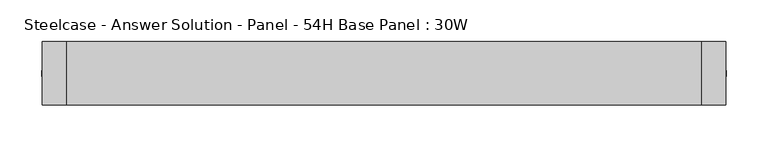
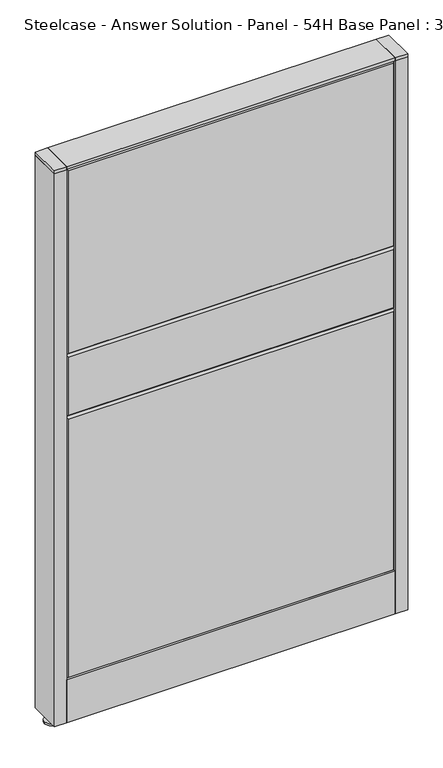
"""IFC4 building model written with IfcOpenShell, lengths in millimetres: furniture geometry, Steelcase - Answer Solution - Panel - 54H Base Panel : 30W."""

from ifc_helpers import new_model, si_unit, point, frame, frame_2d, origin, place, context, project, spatial, polyline, circle_curve, trimmed, segment, composite_curve, outline, extrude, faceted_brep, source, transform, mapped, element, save


def steelcase_answer_solution_panel_54h_base_panel_30w_6c2a5a5e(model_context):
    return source(origin(), model_context, "Body", "SolidModel", [
        extrude(outline(composite_curve([segment(trimmed(circle_curve(frame_2d((395.224, 0.0320214)), 5.08), [point((400.304, 0.0320214))], [point((390.144, 0.0320214))], False, "CARTESIAN"), True, "CONTINUOUS"), segment(trimmed(circle_curve(frame_2d((395.224, 0.0320214)), 5.08), [point((390.144, 0.0320214))], [point((400.304, 0.0320214))], False, "CARTESIAN"), True, "CONTINUOUS")], self_intersect=False)), frame((0.0, 0.0, 5.0799671), z_axis=(0.0, 0.0, 1.0), x_axis=(1.0, 0.0, 0.0)), (0.0, 0.0, 1.0), 10.414),
        extrude(outline(composite_curve([segment(trimmed(circle_curve(frame_2d((395.224, 0.0320214)), 15.24), [point((410.464, 0.0320214))], [point((379.984, 0.0320214))], False, "CARTESIAN"), True, "CONTINUOUS"), segment(trimmed(circle_curve(frame_2d((395.224, 0.0320214)), 15.24), [point((379.984, 0.0320214))], [point((410.464, 0.0320214))], False, "CARTESIAN"), True, "CONTINUOUS")], self_intersect=False)), frame((0.0, 0.0, -3.29e-05), z_axis=(0.0, 0.0, 1.0), x_axis=(1.0, 0.0, 0.0)), (0.0, 0.0, 1.0), 5.08),
        extrude(outline(polyline([(409.575, 38.1320408), (409.575, -38.0679592), (381.0, -38.0679592), (381.0, 38.1320408), (409.575, 38.1320408)])), frame((0.0, 0.0, 1370.6348), z_axis=(0.0, 0.0, 1.0), x_axis=(1.0, 0.0, 0.0)), (0.0, 0.0, 1.0), 7.3151671),
        extrude(outline(polyline([(409.575, 38.1320408), (409.575, -38.0679592), (381.0, -38.0679592), (381.0, 38.1320408), (409.575, 38.1320408)])), frame((0.0, 0.0, 15.4939671), z_axis=(0.0, 0.0, 1.0), x_axis=(1.0, 0.0, 0.0)), (0.0, 0.0, 1.0), 1355.1408329),
        extrude(outline(composite_curve([segment(trimmed(circle_curve(frame_2d((-395.224, 0.0320214)), 5.08), [point((-400.304, 0.0320214))], [point((-390.144, 0.0320214))], False, "CARTESIAN"), True, "CONTINUOUS"), segment(trimmed(circle_curve(frame_2d((-395.224, 0.0320214)), 5.08), [point((-390.144, 0.0320214))], [point((-400.304, 0.0320214))], False, "CARTESIAN"), True, "CONTINUOUS")], self_intersect=False)), frame((0.0, 0.0, 5.0799671), z_axis=(0.0, 0.0, 1.0), x_axis=(1.0, 0.0, 0.0)), (0.0, 0.0, 1.0), 10.414),
        extrude(outline(composite_curve([segment(trimmed(circle_curve(frame_2d((-395.224, 0.0320214)), 15.24), [point((-410.464, 0.0320214))], [point((-379.984, 0.0320214))], False, "CARTESIAN"), True, "CONTINUOUS"), segment(trimmed(circle_curve(frame_2d((-395.224, 0.0320214)), 15.24), [point((-379.984, 0.0320214))], [point((-410.464, 0.0320214))], False, "CARTESIAN"), True, "CONTINUOUS")], self_intersect=False)), frame((0.0, 0.0, -3.29e-05), z_axis=(0.0, 0.0, 1.0), x_axis=(1.0, 0.0, 0.0)), (0.0, 0.0, 1.0), 5.08),
        extrude(outline(polyline([(-409.575, 38.1320408), (-381.0, 38.1320408), (-381.0, -38.0679592), (-409.575, -38.0679592), (-409.575, 38.1320408)])), frame((0.0, 0.0, 1370.6348), z_axis=(0.0, 0.0, 1.0), x_axis=(1.0, 0.0, 0.0)), (0.0, 0.0, 1.0), 7.3151671),
        extrude(outline(polyline([(-409.575, 38.1320408), (-381.0, 38.1320408), (-381.0, -38.0679592), (-409.575, -38.0679592), (-409.575, 38.1320408)])), frame((0.0, 0.0, 15.4939671), z_axis=(0.0, 0.0, 1.0), x_axis=(1.0, 0.0, 0.0)), (0.0, 0.0, 1.0), 1355.1408329),
        faceted_brep([(-376.174, 38.1635011, 1366.774), (376.174, 38.1635011, 1366.774), (376.174, 38.1635011, 919.226), (-376.174, 38.1635011, 919.226), (-381.0, 33.3375011, 1371.6), (-381.0, 33.3375011, 914.4), (381.0, 33.3375011, 914.4), (381.0, 33.3375011, 1371.6)], [[[0, 1, 2, 3]], [[4, 5, 6, 7]], [[4, 7, 1, 0]], [[7, 6, 2, 1]], [[6, 5, 3, 2]], [[5, 4, 0, 3]]]),
        faceted_brep([(-376.174, 38.1635011, 909.574), (376.174, 38.1635011, 909.574), (376.174, 38.1635011, 766.826), (-376.174, 38.1635011, 766.826), (-381.0, 33.3375011, 914.4), (-381.0, 33.3375011, 762.0), (381.0, 33.3375011, 762.0), (381.0, 33.3375011, 914.4)], [[[0, 1, 2, 3]], [[4, 5, 6, 7]], [[4, 7, 1, 0]], [[7, 6, 2, 1]], [[6, 5, 3, 2]], [[5, 4, 0, 3]]]),
        faceted_brep([(-376.174, 38.1635011, 757.174), (376.174, 38.1635011, 757.174), (376.174, 38.1635011, 125.476), (-376.174, 38.1635011, 125.476), (-381.0, 33.3375011, 762.0), (-381.0, 33.3375011, 120.65), (381.0, 33.3375011, 120.65), (381.0, 33.3375011, 762.0)], [[[0, 1, 2, 3]], [[4, 5, 6, 7]], [[4, 7, 1, 0]], [[7, 6, 2, 1]], [[6, 5, 3, 2]], [[5, 4, 0, 3]]]),
        faceted_brep([(376.174, -38.1635011, 1366.774), (-376.174, -38.1635011, 1366.774), (-376.174, -38.1635011, 919.226), (376.174, -38.1635011, 919.226), (381.0, -33.3375011, 1371.6), (381.0, -33.3375011, 914.4), (-381.0, -33.3375011, 914.4), (-381.0, -33.3375011, 1371.6)], [[[0, 1, 2, 3]], [[4, 5, 6, 7]], [[4, 7, 1, 0]], [[7, 6, 2, 1]], [[6, 5, 3, 2]], [[5, 4, 0, 3]]]),
        faceted_brep([(376.174, -38.1635011, 909.574), (-376.174, -38.1635011, 909.574), (-376.174, -38.1635011, 766.826), (376.174, -38.1635011, 766.826), (381.0, -33.3375011, 914.4), (381.0, -33.3375011, 762.0), (-381.0, -33.3375011, 762.0), (-381.0, -33.3375011, 914.4)], [[[0, 1, 2, 3]], [[4, 5, 6, 7]], [[4, 7, 1, 0]], [[7, 6, 2, 1]], [[6, 5, 3, 2]], [[5, 4, 0, 3]]]),
        faceted_brep([(376.174, -38.1635011, 757.174), (-376.174, -38.1635011, 757.174), (-376.174, -38.1635011, 125.476), (376.174, -38.1635011, 125.476), (381.0, -33.3375011, 762.0), (381.0, -33.3375011, 120.65), (-381.0, -33.3375011, 120.65), (-381.0, -33.3375011, 762.0)], [[[0, 1, 2, 3]], [[4, 5, 6, 7]], [[4, 7, 1, 0]], [[7, 6, 2, 1]], [[6, 5, 3, 2]], [[5, 4, 0, 3]]]),
        extrude(outline(polyline([(381.0, 38.1000194), (381.0, -38.1000194), (-381.0, -38.1000194), (-381.0, 38.1000194), (381.0, 38.1000194)])), frame((0.0, 0.0, 1371.6), z_axis=(0.0, 0.0, 1.0), x_axis=(1.0, 0.0, 0.0)), (0.0, 0.0, 1.0), 6.35),
        extrude(outline(polyline([(25.4000011, 119.8575157), (25.4000011, 120.65), (38.1000194, 120.65), (38.1000194, 15.494), (37.3075215, 15.494), (37.3075215, 119.8575157), (25.4000011, 119.8575157)])), frame((-381.0, 0.0, 0.0), z_axis=(1.0, 0.0, 0.0), x_axis=(0.0, 1.0, 0.0)), (0.0, 0.0, 1.0), 762.0),
        extrude(outline(polyline([(-25.4000011, 119.8575157), (-37.3075215, 119.8575157), (-37.3075215, 15.494), (-38.1000194, 15.494), (-38.1000194, 120.65), (-25.4000011, 120.65), (-25.4000011, 119.8575157)])), frame((-381.0, 0.0, 0.0), z_axis=(1.0, 0.0, 0.0), x_axis=(0.0, 1.0, 0.0)), (0.0, 0.0, 1.0), 762.0),
    ])


if __name__ == "__main__":
    model = new_model("IFC4")
    model_context = context("Model", 3, world=origin())
    ifc_project = project(units=[si_unit("LENGTHUNIT", "METRE", prefix="MILLI")], contexts=[model_context])
    site = spatial("IfcSite", under=ifc_project)
    building = spatial("IfcBuilding", under=site)
    placement = place(None, origin())
    steelcase_answer_solution_panel_54h_base_panel_30w_shape = steelcase_answer_solution_panel_54h_base_panel_30w_6c2a5a5e(model_context)
    element("IfcFurniture", 1, ObjectType="Steelcase - Answer Solution - Panel - 54H Base Panel : 30W", at=placement, inside=building, context=model_context, shape_type="MappedRepresentation", body=[
        mapped(steelcase_answer_solution_panel_54h_base_panel_30w_shape, transform((0.0, 0.0, 0.0), x_axis=(1.0, 0.0, 0.0), y_axis=(0.0, 1.0, 0.0), z_axis=(0.0, 0.0, 1.0))),
    ])
    save(model, "model.ifc")
